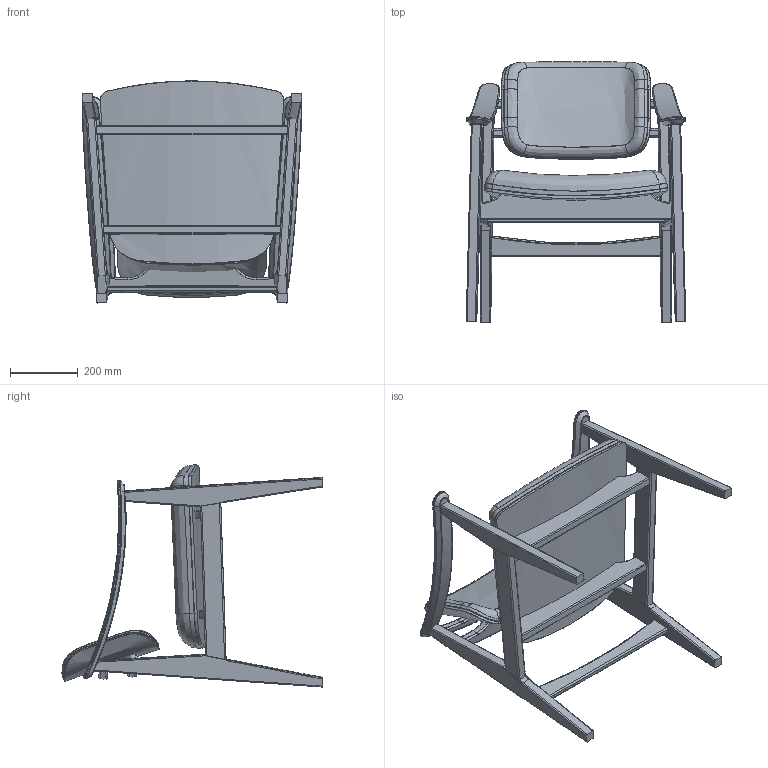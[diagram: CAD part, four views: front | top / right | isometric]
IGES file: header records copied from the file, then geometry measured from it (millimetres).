
Start section: SolidWorks IGES file using analytic representation for surfaces
Global section: file name: C:\Users\Adao.JMS\Documents\Trab Adao\Desenho técnico PRODUÇÃO\J M S\Catalogo MORE 2018\SHANNA\Poltrona\3D POLTRONA SHANNA M1058.IGS; native system: SolidWorks 2019; preprocessor: SolidWorks 2019; author: Adao; date: 200306.091320; units: millimetre
Bounding box: 649.58 x 768.88 x 656.77 mm (x, y, z)
Surface area: 2364383.8 mm2 (no closed solid volume)
Topology: 0 solids, 0 shells, 314 faces, 4303 edges, 4301 vertices
Faces by surface type: bspline 252, revolution 62
